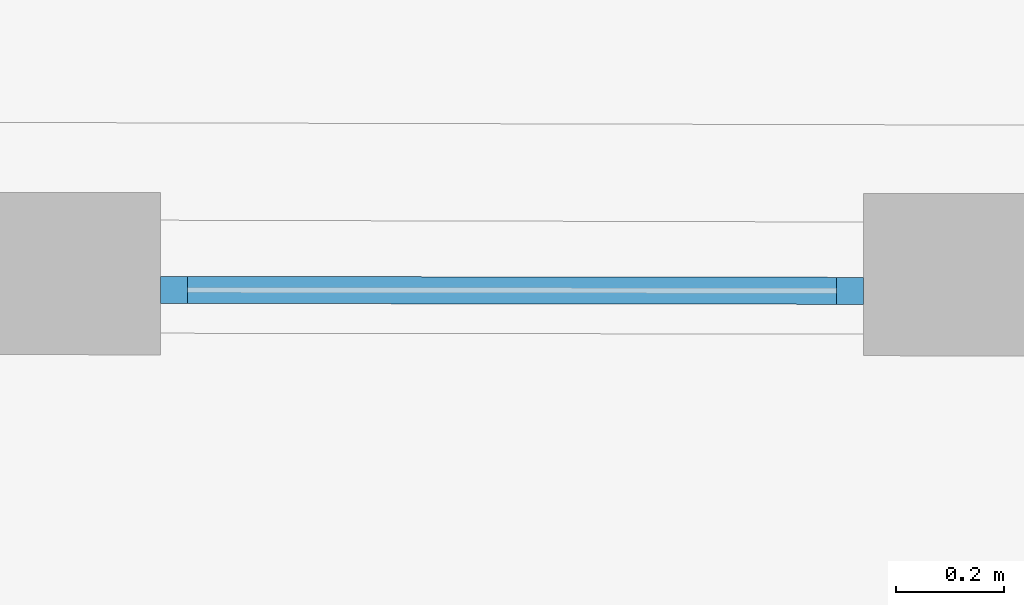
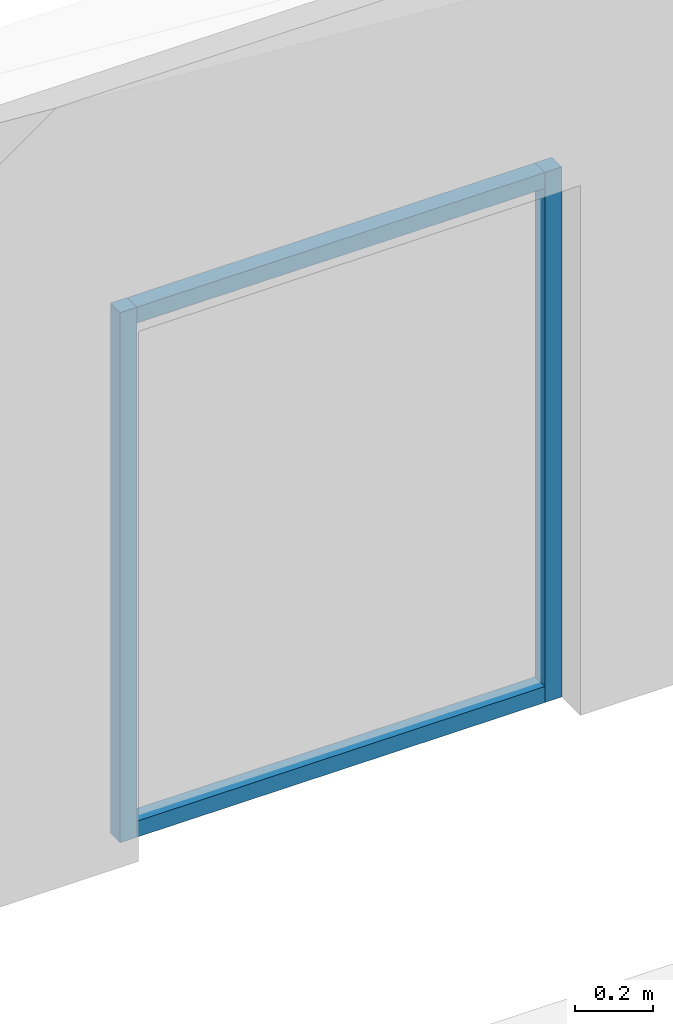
# One storey, part 15 of 26: 4 members, 1 element without a shape of its own.
"""IFC2X3 building model written with IfcOpenShell, lengths in metres."""

import ifcopenshell
import ifcopenshell.guid

model = None  # the IFC model being written
_history = None  # IfcOwnerHistory: only IFC2X3 demands one
_inside = {}  # id of a spatial element -> (the spatial element, [elements in it])
_under = {}  # id of a project, library or spatial element -> (it, [spatial elements below it])
_declared = {}  # id of a project -> (the project, [libraries it declares])
_typed = {}  # id of a type object -> (the type object, [elements of that type])
_made_of = {}  # id of a material, layer set ... -> (it, [elements and type objects made of it])


def new_model(schema):
    """Start an empty IFC model of exactly this schema.

    Asked for "IFC4X3", IfcOpenShell would pick the latest addendum, in which some entities
    have other attributes; the version numbers below select the first issue.
    IFC2X3 requires an IfcOwnerHistory on every rooted entity: one is made here for all.
    """
    global model, _history
    if schema == "IFC4X3":
        model = ifcopenshell.file(schema_version=(4, 3, 0, 0))
    else:
        model = ifcopenshell.file(schema=schema)
    _inside.clear()
    _under.clear()
    _declared.clear()
    _typed.clear()
    _made_of.clear()
    _history = None
    if model.schema == "IFC2X3":
        org = make("IfcOrganization", Name="unknown")
        user = make(
            "IfcPersonAndOrganization",
            ThePerson=make("IfcPerson", FamilyName="unknown"),
            TheOrganization=org,
        )
        app = make(
            "IfcApplication",
            ApplicationDeveloper=org,
            Version="unknown",
            ApplicationFullName="unknown",
            ApplicationIdentifier="unknown",
        )
        _history = make(
            "IfcOwnerHistory",
            OwningUser=user,
            OwningApplication=app,
            ChangeAction="ADDED",
            CreationDate=0,
        )
    return model


def make(cls, **values):
    """One entity of the class cls with the attributes given. An attribute that is None is left unset."""
    return model.create_entity(
        cls, **{name: value for name, value in values.items() if value is not None}
    )


def entity(cls, *values):
    """Any entity or typed value of the class cls, its attributes in the order of the schema. None: left unset."""
    e = model.create_entity(cls)
    for i, value in enumerate(values):
        if value is not None:
            e[i] = value
    return e


def rooted(cls, **values):
    """An entity with a GlobalId (a new one), such as an element, a storey or a relation."""
    return make(cls, GlobalId=ifcopenshell.guid.new(), OwnerHistory=_history, **values)


def si_unit(unit_type, name, prefix=None):
    """IfcSIUnit, for example si_unit("LENGTHUNIT", "METRE", prefix="MILLI")."""
    return make("IfcSIUnit", UnitType=unit_type, Prefix=prefix, Name=name)


def converted_unit(unit_type, name, factor, base, dimensions=None, offset=None):
    """IfcConversionBasedUnit, such as the inch: factor (a typed value) times the base unit."""
    return make(
        "IfcConversionBasedUnit"
        if offset is None
        else "IfcConversionBasedUnitWithOffset",
        ConversionOffset=offset,
        Dimensions=None
        if dimensions is None
        else entity("IfcDimensionalExponents", *dimensions),
        UnitType=unit_type,
        Name=name,
        ConversionFactor=make(
            "IfcMeasureWithUnit", ValueComponent=factor, UnitComponent=base
        ),
    )


def derived_unit(unit_type, elements):
    """IfcDerivedUnit: a product of units, each with its exponent."""
    return make(
        "IfcDerivedUnit",
        Elements=[
            make("IfcDerivedUnitElement", Unit=unit, Exponent=power)
            for unit, power in elements
        ],
        UnitType=unit_type,
    )


def assignment(units):
    """IfcUnitAssignment: the units of a project."""
    return None if units is None else make("IfcUnitAssignment", Units=units)


def point(xyz):
    """IfcCartesianPoint."""
    return None if xyz is None else make("IfcCartesianPoint", Coordinates=xyz)


def direction(xyz):
    """IfcDirection."""
    return None if xyz is None else make("IfcDirection", DirectionRatios=xyz)


def frame(location, z_axis=None, x_axis=None):
    """IfcAxis2Placement3D, a coordinate frame: its origin and axes. An axis left out is left unset."""
    return make(
        "IfcAxis2Placement3D",
        Location=point(location),
        Axis=direction(z_axis),
        RefDirection=direction(x_axis),
    )


def frame_2d(location, x_axis=None):
    """IfcAxis2Placement2D, a coordinate frame in the plane: its origin and x axis."""
    return make(
        "IfcAxis2Placement2D", Location=point(location), RefDirection=direction(x_axis)
    )


def origin():
    """The frame at (0, 0, 0) with its axes left unset."""
    return frame((0.0, 0.0, 0.0))


def origin_2d_with_axis():
    """The frame at (0, 0) in the plane with the x axis (1, 0) written out."""
    return frame_2d((0.0, 0.0), x_axis=(1.0, 0.0))


def place(relative_to, where):
    """IfcLocalPlacement: puts the frame where relative to a parent placement (None: the world)."""
    return make(
        "IfcLocalPlacement", PlacementRelTo=relative_to, RelativePlacement=where
    )


def context(
    kind, dimensions, precision=None, world=None, true_north=None, identifier=None
):
    """IfcGeometricRepresentationContext, for example the 3D "Model" context."""
    return make(
        "IfcGeometricRepresentationContext",
        ContextIdentifier=identifier,
        ContextType=kind,
        CoordinateSpaceDimension=dimensions,
        Precision=precision,
        WorldCoordinateSystem=world,
        TrueNorth=true_north,
    )


def subcontext(parent, identifier, kind, view, scale=None):
    """IfcGeometricRepresentationSubContext, for example "Body" below "Model"."""
    return make(
        "IfcGeometricRepresentationSubContext",
        ContextIdentifier=identifier,
        ContextType=kind,
        ParentContext=parent,
        TargetScale=scale,
        TargetView=view,
    )


def project(units=None, contexts=None):
    """IfcProject with its units and contexts."""
    return rooted(
        "IfcProject",
        Name="project",
        RepresentationContexts=contexts,
        UnitsInContext=assignment(units),
    )


def spatial(cls, under=None, at=None, **own):
    """A site, building, storey or space (cls), placed at a placement, below another one or the project."""
    s = rooted(cls, ObjectPlacement=at, **own)
    if under is not None:
        _under.setdefault(under.id(), (under, []))[1].append(s)
    return s


def profile(cls, at=None, kind="AREA", **sizes):
    """A parametric profile (cls). Its sizes go by their IFC names, for example OverallWidth=200.0."""
    return make(cls, ProfileType=kind, Position=at, **sizes)


def rectangle(**sizes):
    """IfcRectangleProfileDef."""
    return profile("IfcRectangleProfileDef", **sizes)


def extrude(swept, where, along, depth):
    """IfcExtrudedAreaSolid: the profile swept, set in the frame where, extruded along a direction by depth."""
    return make(
        "IfcExtrudedAreaSolid",
        SweptArea=swept,
        Position=where,
        ExtrudedDirection=direction(along),
        Depth=depth,
    )


def shape(context_of_items, identifier, shape_type, items):
    """IfcShapeRepresentation: the items that make up one representation, for example the "Body"."""
    return make(
        "IfcShapeRepresentation",
        ContextOfItems=context_of_items,
        RepresentationIdentifier=identifier,
        RepresentationType=shape_type,
        Items=items,
    )


def source(mapping_origin, context_of_items, identifier, shape_type, items):
    """IfcRepresentationMap: a shape defined once, which mapped items show again and again."""
    return make(
        "IfcRepresentationMap",
        MappingOrigin=mapping_origin,
        MappedRepresentation=shape(context_of_items, identifier, shape_type, items),
    )


def transform(
    local_origin,
    x_axis=None,
    y_axis=None,
    z_axis=None,
    scale=None,
    scale2=None,
    scale3=None,
    uniform=True,
):
    """IfcCartesianTransformationOperator3D, or its non-uniform kind. x_axis, y_axis, z_axis: its Axis1, 2, 3."""
    if uniform:
        return make(
            "IfcCartesianTransformationOperator3D",
            Axis1=direction(x_axis),
            Axis2=direction(y_axis),
            LocalOrigin=point(local_origin),
            Scale=scale,
            Axis3=direction(z_axis),
        )
    return make(
        "IfcCartesianTransformationOperator3DnonUniform",
        Axis1=direction(x_axis),
        Axis2=direction(y_axis),
        LocalOrigin=point(local_origin),
        Scale=scale,
        Axis3=direction(z_axis),
        Scale2=scale2,
        Scale3=scale3,
    )


def mapped(mapping_source, mapping_target):
    """IfcMappedItem: shows the shape of a source again, moved by a transform."""
    return make(
        "IfcMappedItem", MappingSource=mapping_source, MappingTarget=mapping_target
    )


def material(Name=None, Category=None):
    """IfcMaterial."""
    return make("IfcMaterial", Name=Name, Category=Category)


def made_of(thing, what):
    """Note that an element or type object is made of a material, layer set ...; save() writes the relation."""
    if what is not None:
        _made_of.setdefault(what.id(), (what, []))[1].append(thing)
    return thing


def type_object(cls, material=None, **own):
    """A type object (cls), such as IfcWallType, which elements share."""
    return made_of(rooted(cls, **own), material)


def type_shapes(of_type, sources):
    """Give a type object the sources (RepresentationMaps) that its elements show as mapped items."""
    of_type.RepresentationMaps = sources


def element(
    cls,
    number,
    at=None,
    inside=None,
    cuts=None,
    type_object=None,
    material=None,
    context=None,
    identifier="Body",
    shape_type=None,
    held_by="IfcProductDefinitionShape",
    body=None,
    shapes=None,
    **own,
):
    """One element of the class cls, such as IfcWall. Its Tag is "e" and its number.

    at: its placement. inside: the storey or other place that contains it. cuts: it is an
    opening in that element (IfcRelVoidsElement). A single representation is given by context,
    identifier, shape_type and body (its items); several are given by shapes. held_by: the class
    of the entity that holds the representations. save() writes the other relations.
    """
    e = rooted(cls, Tag="e%d" % number, ObjectPlacement=at, **own)
    if body is not None:
        shapes = [shape(context, identifier, shape_type, body)]
    if shapes is not None:
        e.Representation = make(held_by, Representations=shapes)
    if inside is not None:
        _inside.setdefault(inside.id(), (inside, []))[1].append(e)
    if cuts is not None:
        rooted(
            "IfcRelVoidsElement", RelatingBuildingElement=cuts, RelatedOpeningElement=e
        )
    if type_object is not None:
        _typed.setdefault(type_object.id(), (type_object, []))[1].append(e)
    return made_of(e, material)


def aggregate(whole, parts):
    """IfcRelAggregates: a whole, such as a stair, and the parts it consists of."""
    return rooted("IfcRelAggregates", RelatingObject=whole, RelatedObjects=parts)


def save(model, path):
    """Write the relations noted so far, then the file.

    IfcRelAggregates (storeys below a building ...), IfcRelContainedInSpatialStructure (elements
    in a storey), IfcRelDefinesByType, IfcRelAssociatesMaterial and IfcRelDeclares: one each for
    every whole, place, type object, material and project.
    """
    for whole, parts in _under.values():
        aggregate(whole, parts)
    for where, things in _inside.values():
        rooted(
            "IfcRelContainedInSpatialStructure",
            RelatedElements=things,
            RelatingStructure=where,
        )
    for kind, things in _typed.values():
        rooted("IfcRelDefinesByType", RelatedObjects=things, RelatingType=kind)
    for what, things in _made_of.values():
        rooted("IfcRelAssociatesMaterial", RelatedObjects=things, RelatingMaterial=what)
    for by, libraries in _declared.values():
        rooted("IfcRelDeclares", RelatingContext=by, RelatedDefinitions=libraries)
    model.write(path)


model = new_model("IFC2X3")

# Units and contexts
model_context = context("Model", 3, precision=1e-05, world=origin(), true_north=direction((6.123233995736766e-17, 1.0)))
body_context = subcontext(model_context, "Body", "Model", "MODEL_VIEW")
ifc_project = project(units=[si_unit("LENGTHUNIT", "METRE"), si_unit("AREAUNIT", "SQUARE_METRE"), converted_unit("PLANEANGLEUNIT", "DEGREE", entity("IfcPlaneAngleMeasure", 0.017453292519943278), si_unit("PLANEANGLEUNIT", "RADIAN"), dimensions=[0, 0, 0, 0, 0, 0, 0]), derived_unit("THERMALTRANSMITTANCEUNIT", [(si_unit("MASSUNIT", "GRAM", prefix="KILO"), 1), (si_unit("THERMODYNAMICTEMPERATUREUNIT", "KELVIN"), -1), (si_unit("TIMEUNIT", "SECOND"), -3)])], contexts=[model_context])

# Site, building, storey
site_placement = place(None, frame((1253.6752467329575, 2072.143113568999, 91.49999999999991), z_axis=(0.0, 0.0, 1.0), x_axis=(0.7237211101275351, 0.6900925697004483, 0.0)))
site = spatial("IfcSite", under=ifc_project, at=site_placement, Name="Surface", CompositionType="ELEMENT")
building_placement = place(site_placement, origin())
building = spatial("IfcBuilding", under=site, at=building_placement, CompositionType="ELEMENT")
storey_placement = place(building_placement, frame((0.0, 0.0, 7.0)))
storey = spatial("IfcBuildingStorey", under=building, at=storey_placement, Name="2-R+2", CompositionType="ELEMENT", Elevation=6.999999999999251)

# Curtain wall, members
curtain_wall_type = type_object("IfcCurtainWallType", Name="Mur-rideau:Menuiserie Ext 1F+1OB VERTIC", PredefinedType="NOTDEFINED")
curtain_wall_placement = place(storey_placement, frame((0.0, 0.0, -7.0)))
curtain_wall = element("IfcCurtainWall", 1, at=curtain_wall_placement, inside=storey, type_object=curtain_wall_type, Name="Mur-rideau:Menuiserie Ext 1F+1OB VERTIC", ObjectType="Mur-rideau:Menuiserie Ext 1F+1OB VERTIC")
ifc_material = material(Name="OMD_Aluminium Men Ext")
member_type_1 = type_object("IfcMemberType", Name="Meneau rectangulaire:50x50", PredefinedType="MULLION", material=ifc_material)
shared_shape_1 = source(origin(), body_context, "Body", "SweptSolid", [
    extrude(rectangle(XDim=0.05, YDim=0.049999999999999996, at=origin_2d_with_axis()), frame((-0.025, 0.0, -1.1996959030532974), z_axis=(0.0, 0.0, 1.0), x_axis=(-1.0, 0.0, 0.0)), (0.0, 0.0, 1.0), 1.1996959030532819),
])
type_shapes(member_type_1, [shared_shape_1])
member_1_placement = place(curtain_wall_placement, frame((196.15037519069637, -1.1099826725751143, 9.55), z_axis=(-0.7228702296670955, 0.690983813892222, 0.0), x_axis=(0.0, 0.0, 1.0)))
member_1 = element("IfcMember", 2, at=member_1_placement, type_object=member_type_1, material=ifc_material, Name="Meneau rectangulaire:50x50", ObjectType="Meneau rectangulaire:50x50", context=body_context, shape_type="MappedRepresentation", body=[
    mapped(shared_shape_1, transform((0.0, 0.0, 0.0), scale=1.0)),
])
member_type_2 = type_object("IfcMemberType", Name="Meneau rectangulaire:50x50", PredefinedType="MULLION", material=ifc_material)
shared_shape_2 = source(origin(), body_context, "Body", "SweptSolid", [
    extrude(rectangle(XDim=0.05, YDim=0.05, at=origin_2d_with_axis()), frame((-0.025, 0.0, -1.1996959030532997), z_axis=(0.0, 0.0, 1.0), x_axis=(-1.0, 0.0, 0.0)), (0.0, 0.0, 1.0), 1.1996959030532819),
])
type_shapes(member_type_2, [shared_shape_2])
member_2_placement = place(curtain_wall_placement, frame((197.01759964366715, -1.938953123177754, 7.9), z_axis=(0.7228702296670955, -0.690983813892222, 0.0), x_axis=(0.0, 0.0, -1.0)))
member_2 = element("IfcMember", 3, at=member_2_placement, type_object=member_type_2, material=ifc_material, Name="Meneau rectangulaire:50x50", ObjectType="Meneau rectangulaire:50x50", context=body_context, shape_type="MappedRepresentation", body=[
    mapped(shared_shape_2, transform((0.0, 0.0, 0.0), scale=1.0)),
])
member_type_3 = type_object("IfcMemberType", Name="Meneau rectangulaire:50x50", PredefinedType="MULLION", material=ifc_material)
shared_shape_3 = source(origin(), body_context, "Body", "SweptSolid", [
    extrude(rectangle(XDim=0.05, YDim=0.049999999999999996, at=origin_2d_with_axis()), frame((-0.025, 0.0, -1.6499999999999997), z_axis=(0.0, 0.0, 1.0), x_axis=(-1.0, 0.0, 0.0)), (0.0, 0.0, 1.0), 1.6499999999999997),
])
type_shapes(member_type_3, [shared_shape_3])
member_3_placement = place(curtain_wall_placement, frame((196.11423167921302, -1.075433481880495, 7.9), z_axis=(0.0, 0.0, -1.0), x_axis=(-0.7228702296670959, 0.6909838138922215, 0.0)))
member_3 = element("IfcMember", 4, at=member_3_placement, type_object=member_type_3, material=ifc_material, Name="Meneau rectangulaire:50x50", ObjectType="Meneau rectangulaire:50x50", context=body_context, shape_type="MappedRepresentation", body=[
    mapped(shared_shape_3, transform((0.0, 0.0, 0.0), scale=1.0)),
])
member_type_4 = type_object("IfcMemberType", Name="Meneau rectangulaire:50x50", PredefinedType="MULLION", material=ifc_material)
shared_shape_4 = source(origin(), body_context, "Body", "SweptSolid", [
    extrude(rectangle(XDim=0.05, YDim=0.049999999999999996, at=origin_2d_with_axis()), frame((-0.025, 0.0, -1.6499999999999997), z_axis=(0.0, 0.0, 1.0), x_axis=(-1.0, 0.0, 0.0)), (0.0, 0.0, 1.0), 1.6499999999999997),
])
type_shapes(member_type_4, [shared_shape_4])
member_4_placement = place(curtain_wall_placement, frame((197.05374315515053, -1.9735023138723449, 9.55), z_axis=(0.0, 0.0, 1.0), x_axis=(0.7228702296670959, -0.6909838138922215, 0.0)))
member_4 = element("IfcMember", 5, at=member_4_placement, type_object=member_type_4, material=ifc_material, Name="Meneau rectangulaire:50x50", ObjectType="Meneau rectangulaire:50x50", context=body_context, shape_type="MappedRepresentation", body=[
    mapped(shared_shape_4, transform((0.0, 0.0, 0.0), scale=1.0)),
])
aggregate(curtain_wall, [member_1, member_2, member_3, member_4])

save(model, "model.ifc")
